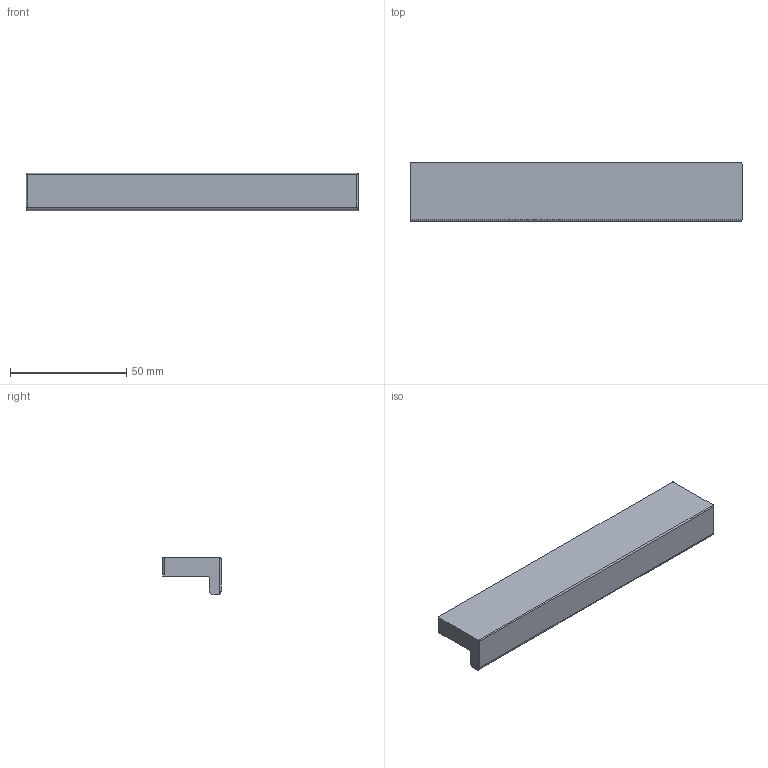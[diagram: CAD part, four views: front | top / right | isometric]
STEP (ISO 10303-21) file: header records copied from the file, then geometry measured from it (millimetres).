
FILE_DESCRIPTION( ( 'STEP AP214' ), '1' );
FILE_NAME( 'D:/D Drive/Yug/2023/ProDecor/Handle_Rovigo/9204023.stp', '2023-12-04T12:04:43', ( '' ), ( '' ), ' ', 'PARTsolutions', ' ' );
FILE_SCHEMA( ( 'AUTOMOTIVE_DESIGN { 1 0 10303 214 1 1 1 1 }' ) );
Length unit declared in the file: millimetre
Products named in the file (1): _9204023
Bounding box: 143 x 25 x 16 mm (x, y, z)
Volume: 33951.1 mm3; surface area: 12169.4 mm2
Topology: 1 solids, 1 shells, 20 faces, 46 edges, 30 vertices
Faces by surface type: cylinder 10, plane 10
Full cylindrical faces by diameter (mm): 4 x2
Entity records: 746 total; most frequent: CARTESIAN_POINT 109, DIRECTION 100, ORIENTED_EDGE 88, EDGE_CURVE 44, AXIS2_PLACEMENT_3D 37, VERTEX_POINT 30, LINE 26, VECTOR 26
